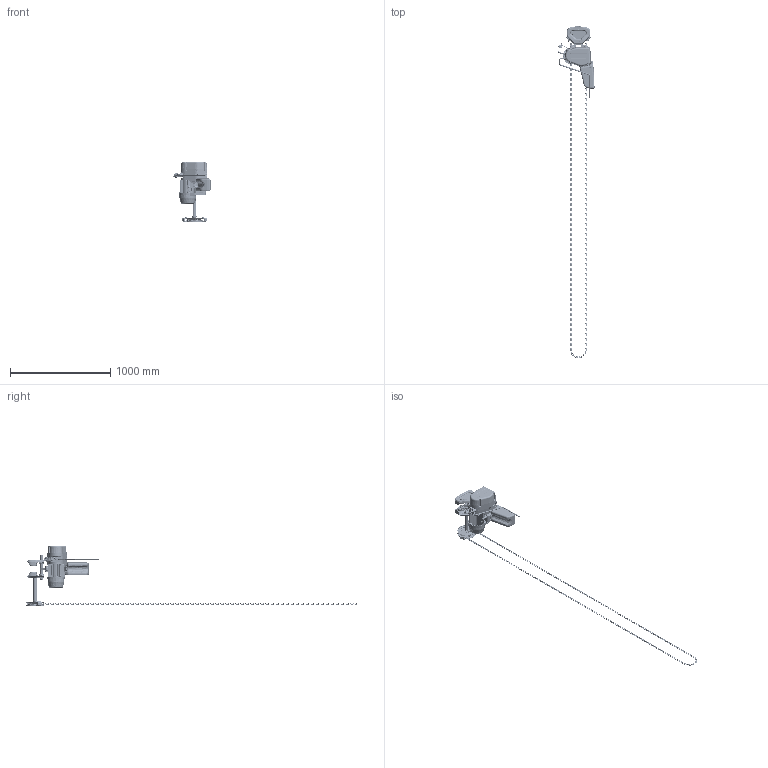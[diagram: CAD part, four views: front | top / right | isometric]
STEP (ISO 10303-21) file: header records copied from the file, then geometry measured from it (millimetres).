
FILE_DESCRIPTION (( 'STEP AP203' ), '1' );
FILE_NAME ('EQG005.STEP', '2020-01-28T13:35:03', ( 'harrington' ), ( 'Microsoft' ), 'SwSTEP 2.0', 'SolidWorks 2019', '' );
FILE_SCHEMA (( 'CONFIG_CONTROL_DESIGN' ));
Length unit declared in the file: millimetre
Products named in the file (71): 9091227_c; 9009423_9009423; EQ1CI9107_______; C2BA100-90741_ISO 7040-M8-N; T6G5101010; 9012708_9012708; HCCF005; T7GA0109142; body500kg-2012-0903_____________; T6GA0109126; CableHolder-X_______; E2YS005-9116; GTS2010EHWK; EQ1CI2104_______; T6G5102010; J1BG10601010_M6X10X10; N6TA100E91251-0_______; HCCF005 for GT2010; T6GA0109113; ECP5924AB1-0-X_______; T6G5121010; EQ1CI9110_____________; ER1BS9135; T6GA0109102; EQ1CI9401_______; MS104010; EQ1CI9001; J1AA4-5002020_J1AA4-5002020; GTS2010 Extended Hand Wheel_4" FLANGE; T6GA0109103; ECP5924AQ1_______; T6G123010; Pwer suply cable(ECH)-X_______; E2YS005-9109; 6302Z BEARING; chain backet2011018_______; 9047115_9047115; J1AP26001616_B18.6.7M - M6 x 1.0 x 16 Type I Cross Recessed PHMS --16N; J1PW01-016010_M1.6X10 SPLIT PIN; EQG005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
Assembly tree (385 placements, depth 5):
  EQG005
    EQ500kg_SUSP. EYE MOUNTED
      body500kg-2012-0903_____________
      CableHolder-X_______
        ECP5924AB1-0-X_______
        ECP5924AQ1_______
        ECP5924AA1-0-X_______
        ECP5924AD1-0-X_______
        ECP6912AA1-1-X_______
      CableHolder-X_______
        ECP5924AB1-0-X_______
        ECP5924AQ1_______
        ECP5924AA1-0-X_______
        ECP5924AD1-0-X_______
        ECP6912AA1-1-X_______
      EQ1CI9110_____________
      Pwer suply cable(ECH)-X_______
      Push bottan_______
        code (ECH)-X__500_______
        stop(ECH)-X__500_______
      EQ1CI9107_______
      EQ1CI2104_______
      chain backet2011018_______
        EQ1CI9401_______
      ER1BS95412_______
      E4YS005-28223-0-HSM_______
        E4YS005-98222-0-HSM_______
        E3ES002-95412-2-HSM_______
        9012708_9012708  x2
        N6TA100E91251-0_______
        J1AA4-5002020_J1AA4-5002020  x2
        J1PW01-016010_M1.6X10 SPLIT PIN
      J1WH012-10050_J1WH012-10050  x8
      9091227_c  x8
      E2YS005-9116
      ER1BS9135
      E2YS005-9109
      E5FE003S9111
      EQ1CI9121  x2
      J1BE1-0809028_B18.3.1M - 8 x 1.25 x 90 Hex SHCS -- 28CHX
      C2BA100-90741_ISO 7040-M8-N
      J1BG10601010_M6X10X10  x2
      EQ1CI9001
      J1AP26001616_B18.6.7M - M6 x 1.0 x 16 Type I Cross Recessed PHMS --16N  x2
    GTS2010 Extended Hand Wheel_4" FLANGE
      T7GA0105112
        T6GA0109112
        T7GA0109141
        T7GA0109142
        T6GA0109113
        T6GA0109103  x2
      GTS2010EHWK
        T6GA0109111
        T7GA0109141
        T7GA0109142
        T6GA0109113
        T6GA0109103  x2
        T7KB0109122
        T6G5121010
          T6GA0109125
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Bounding box: 370.69 x 3318.8 x 600.04 mm (x, y, z)
Volume: 5707833.1 mm3; surface area: 2605630.1 mm2
Topology: 367 solids, 383 shells, 15471 faces, 38344 edges, 23163 vertices
Faces by surface type: cylinder 4884, plane 4808, torus 2677, bspline 1539, cone 1221, sphere 342
Entity records: 370202 total; most frequent: CARTESIAN_POINT 142944, ORIENTED_EDGE 47154, DIRECTION 41454, EDGE_CURVE 23579, AXIS2_PLACEMENT_3D 16523, VERTEX_POINT 14509, EDGE_LOOP 9920, FACE_OUTER_BOUND 9423
